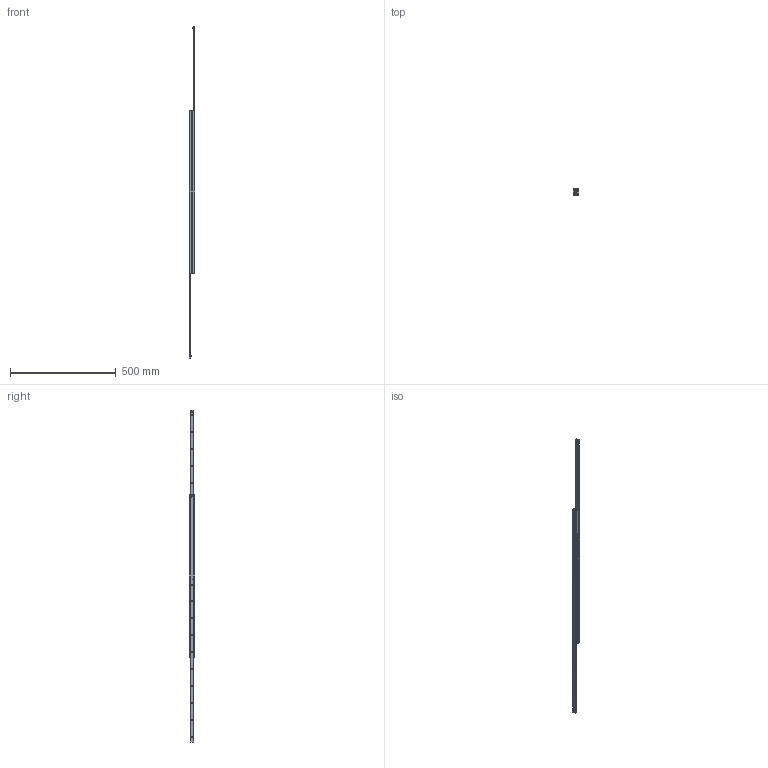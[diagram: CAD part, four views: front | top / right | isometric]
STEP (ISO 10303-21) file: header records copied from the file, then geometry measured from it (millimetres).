
FILE_DESCRIPTION( ( 'STEP AP214' ), '1' );
FILE_NAME( 'p:/temp/worker_90/temp/exporttempdir_3096_1603_c52T9/format_0/DEF28-770801.stp', '2020-03-20T19:46:38', ( 'License CC BY-ND 4.0' ), ( 'CADENAS' ), ' ', 'PARTsolutions', ' ' );
FILE_SCHEMA( ( 'AUTOMOTIVE_DESIGN { 1 0 10303 214 1 1 1 1 }' ) );
Length unit declared in the file: millimetre
Products named in the file (4): DEF28-770801; _282177080112-gf; _28217708011-ei; _282177080111-gf
Assembly tree (4 placements, depth 2):
  DEF28-770801
    _282177080112-gf
    _28217708011-ei  x2
    _282177080111-gf
Bounding box: 26 x 28 x 1571 mm (x, y, z)
Volume: 373434 mm3; surface area: 222799 mm2
Topology: 4 solids, 4 shells, 210 faces, 528 edges, 338 vertices
Faces by surface type: plane 102, cylinder 64, cone 44
Full cylindrical faces by diameter (mm): 4.134 x20, 5 x2
Entity records: 5976 total; most frequent: DIRECTION 824, CARTESIAN_POINT 766, ORIENTED_EDGE 684, EDGE_CURVE 342, AXIS2_PLACEMENT_3D 314, EDGE_LOOP 274, VERTEX_POINT 256, LINE 196
